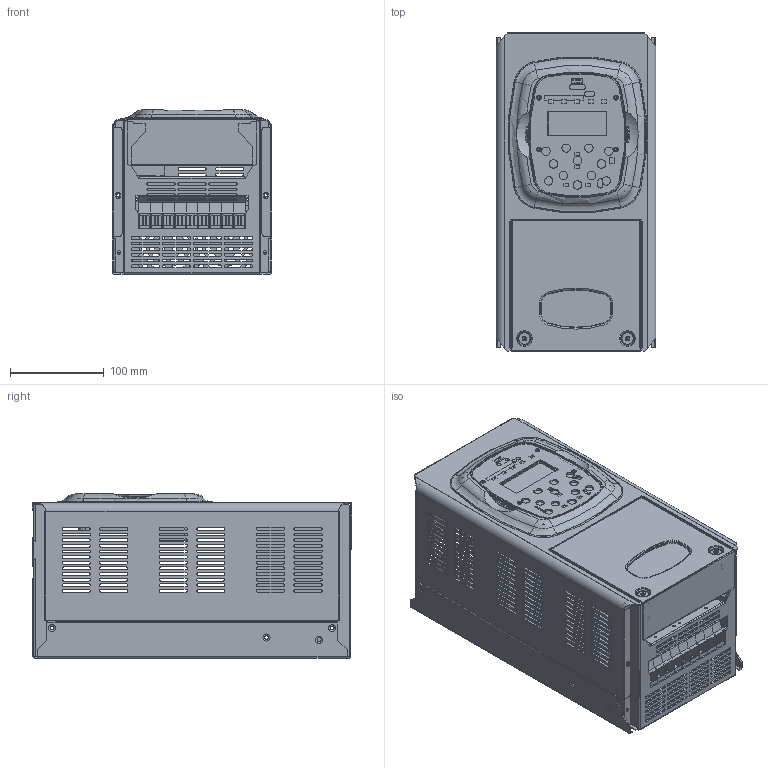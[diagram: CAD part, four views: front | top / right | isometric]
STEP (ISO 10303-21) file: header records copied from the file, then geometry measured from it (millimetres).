
FILE_DESCRIPTION( ( 'Unknown' ), '1' );
FILE_NAME( 'C:/Users/PRondell/Documents/USER/3D-S05/PENTA-IRISBLUE_S05.stp', 'Unknown', ( 'Unknown' ), ( 'Unknown' ), 'PSStep 14.0', 'Unknown', ' ' );
FILE_SCHEMA( ( 'AUTOMOTIVE_DESIGN { 1 0 10303 214 1 1 1 1 }' ) );
Length unit declared in the file: millimetre
Products named in the file (17): ES815; ES815-Circuito stampato; ES815-Display; ES815-Connettore; CR0005800-8961-R01; CR0005800_1-8961-R01; CR0005800_2-8961-R01; CR0005800_3-8961-R01; scheda pilotaggio; morsetto; Guscio tastiera; Cornice; Guscio inferiore; Guscio superiore; Assem1; CR0005861-8964-R01; CR0005881-8965-R01
Assembly tree (24 placements, depth 4):
  Assem1
    CR0005861-8964-R01
    CR0005881-8965-R01
    Guscio tastiera
      Cornice
      Guscio inferiore
      Guscio superiore
      ES815
        ES815-Circuito stampato
        ES815-Display
        ES815-Connettore
    scheda pilotaggio
      morsetto  x9
    CR0005800-8961-R01
      CR0005800_1-8961-R01
      CR0005800_2-8961-R01
      CR0005800_3-8961-R01
Bounding box: 170 x 340.25 x 175 mm (x, y, z)
Volume: 598988 mm3; surface area: 761837.8 mm2
Topology: 20 solids, 20 shells, 2581 faces, 7147 edges, 4721 vertices
Faces by surface type: plane 1399, cylinder 937, torus 95, cone 90, bspline 58, revolution 2
Full cylindrical faces by diameter (mm): 0.6 x8, 0.9 x8, 1 x17, 2.2 x8, 2.4 x9, 2.5 x8, 2.7 x4, 3.1 x4, 3.2 x2, 3.4 x2, 3.5 x18, 3.6 x2, 3.7 x2, 4 x25, 4.5 x1, 4.6 x1, 4.9 x4, 5 x17, 5.2 x4, 5.5 x17, 6 x4, 7.6 x1, 7.8 x9, 9 x10
Entity records: 85768 total; most frequent: CARTESIAN_POINT 16145, DIRECTION 12716, ORIENTED_EDGE 12348, EDGE_CURVE 6174, AXIS2_PLACEMENT_3D 4451, VERTEX_POINT 4196, LINE 3812, VECTOR 3812
